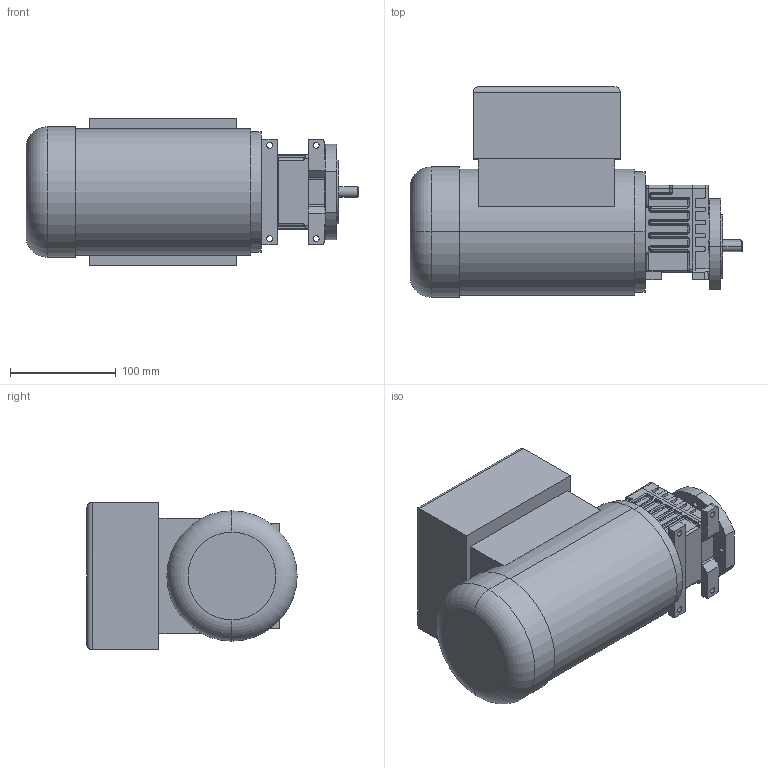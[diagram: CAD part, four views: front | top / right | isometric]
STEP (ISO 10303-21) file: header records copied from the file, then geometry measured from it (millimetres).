
FILE_DESCRIPTION(('OneSpaceDesigner STEP Export'),'2;1');
FILE_NAME('G23_G27_BF_B14R_Motor_Bgr_63_EEXDe_3D.stp','2007-08-27T14:42:34',(''),(''),'OneSpace Designer STEP processor for AP214 (Solid Model)','OneSpace Modeling 15.00B 25-Jun-2007 (C) CoCreate Software GmbH','');
FILE_SCHEMA(('AUTOMOTIVE_DESIGN { 1 0 10303 214 1 1 1 1 }'));
Length unit declared in the file: millimetre
Products named in the file (1): 013_G23_G27_BF_B14R_Motor_Bgr_63_EEXDe.1_1
Bounding box: 313.5 x 198.5 x 139 mm (x, y, z)
Volume: 4460348.3 mm3; surface area: 205083.6 mm2
Topology: 1 solids, 1 shells, 515 faces, 1293 edges, 784 vertices
Faces by surface type: bspline 224, plane 137, cylinder 122, torus 13, cone 10, sphere 5, extrusion 4
Entity records: 37167 total; most frequent: CARTESIAN_POINT 23342, ORIENTED_EDGE 2566, EDGE_CURVE 1283, DIRECTION 1215, VERTEX_POINT 784, EDGE_LOOP 547, COLOUR_RGB 516, FILL_AREA_STYLE_COLOUR 516
